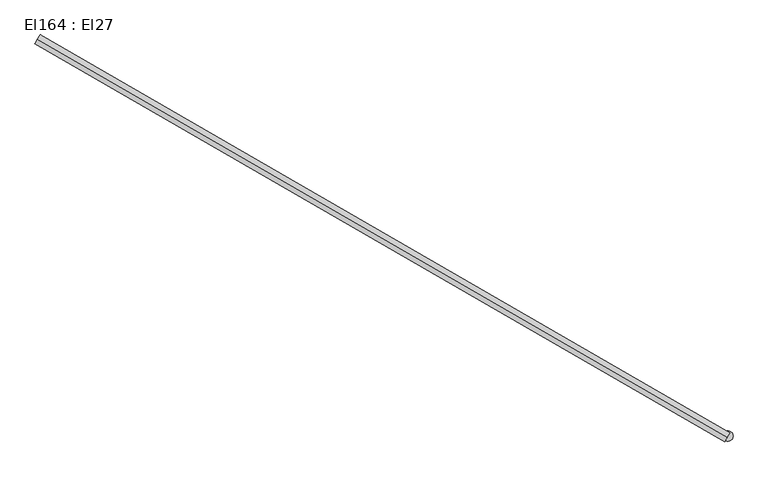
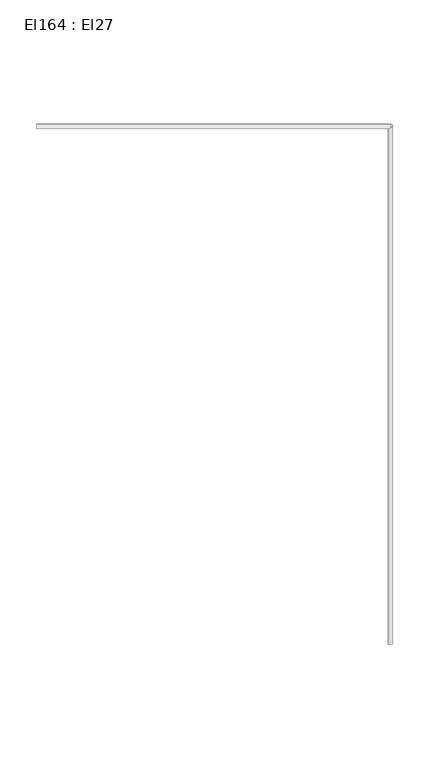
"""IFC4 building model written with IfcOpenShell, lengths in millimetres: cable carrier segment geometry, El164 : El27."""

from ifc_helpers import new_model, si_unit, point, frame, frame_2d, origin, place, context, project, spatial, circle_curve, trimmed, segment, composite_curve, outline, extrude, source, transform, mapped, element, save


def el164_el27_93b330e2(model_context):
    return source(origin(), model_context, "Body", "SweptSolid", [
        extrude(outline(composite_curve([segment(trimmed(circle_curve(frame_2d((2714.4716511, 8268.2401745)), 9.5), [point((2704.9716511, 8268.2401745))], [point((2723.9716511, 8268.2401745))], False, "CARTESIAN"), True, "CONTINUOUS"), segment(trimmed(circle_curve(frame_2d((2714.4716511, 8268.2401745)), 9.5), [point((2723.9716511, 8268.2401745))], [point((2704.9716511, 8268.2401745))], False, "CARTESIAN"), True, "CONTINUOUS")], self_intersect=False)), frame((0.0, 0.0, 1830.0), z_axis=(0.0, 0.0, 1.0), x_axis=(1.0, 0.0, 0.0)), (0.0, 0.0, 1.0), 2620.0),
        extrude(outline(composite_curve([segment(trimmed(circle_curve(frame_2d((0.0, -9.5)), 9.5), [point((0.0, -19.0))], [point((0.0, 0.0))], False, "CARTESIAN"), True, "CONTINUOUS"), segment(trimmed(circle_curve(frame_2d((0.0, -9.5)), 9.5), [point((0.0, 0.0))], [point((0.0, -19.0))], False, "CARTESIAN"), True, "CONTINUOUS")], self_intersect=False)), frame((2713.2868865, 8266.1851745, 4459.5), z_axis=(-0.8660254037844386, 0.5000000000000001, 0.0), x_axis=(-0.5000000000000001, -0.8660254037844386, 0.0)), (0.0, 0.0, 1.0), 1466.53),
    ])


if __name__ == "__main__":
    model = new_model("IFC4")
    model_context = context("Model", 3, world=origin())
    ifc_project = project(units=[si_unit("LENGTHUNIT", "METRE", prefix="MILLI")], contexts=[model_context])
    site = spatial("IfcSite", under=ifc_project)
    building = spatial("IfcBuilding", under=site)
    placement = place(None, origin())
    el164_el27_shape = el164_el27_93b330e2(model_context)
    element("IfcCableCarrierSegment", 1, ObjectType="El164 : El27", at=placement, inside=building, context=model_context, shape_type="MappedRepresentation", body=[
        mapped(el164_el27_shape, transform((0.0, 0.0, 0.0), x_axis=(1.0, 0.0, 0.0), y_axis=(0.0, 1.0, 0.0), z_axis=(0.0, 0.0, 1.0))),
    ])
    save(model, "model.ifc")
